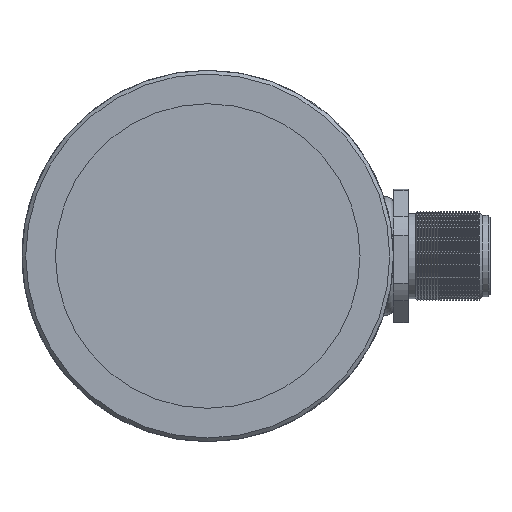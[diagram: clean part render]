
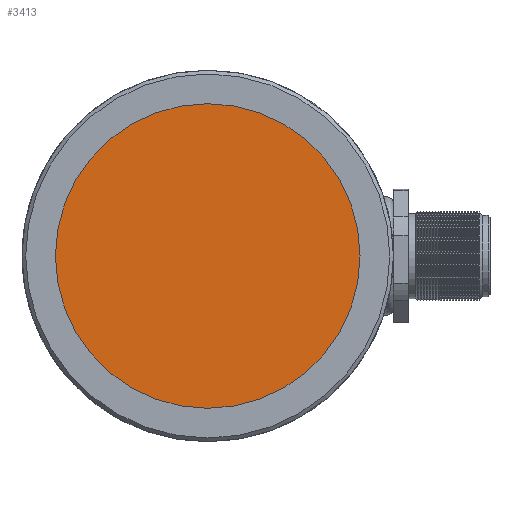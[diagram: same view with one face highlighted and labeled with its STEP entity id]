
A CAD part, left-side view. The second image highlights one B-rep face of the part: STEP entity #3413.
In plain terms, the highlighted planar face has unit normal (-1, 0, 0).
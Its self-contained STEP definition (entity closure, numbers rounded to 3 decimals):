
#430=PLANE('',#3682);
#836=VERTEX_POINT('',#4058);
#1138=CIRCLE('',#3681,20.5);
#1310=EDGE_CURVE('',#836,#836,#1138,.T.);
#1774=ORIENTED_EDGE('',*,*,#1310,.T.);
#2680=EDGE_LOOP('',(#1774));
#3051=FACE_BOUND('',#2680,.T.);
#3413=ADVANCED_FACE('',(#3051),#430,.F.);
#3681=AXIS2_PLACEMENT_3D('',#4057,#5745,#5746);
#3682=AXIS2_PLACEMENT_3D('',#4059,#5747,$);
#4057=CARTESIAN_POINT('',(-27.,0.,0.));
#4058=CARTESIAN_POINT('',(-27.,0.,-20.5));
#4059=CARTESIAN_POINT('',(-27.,0.,0.));
#5745=DIRECTION('',(-1.,0.,0.));
#5746=DIRECTION('',(0.,0.,-20.5));
#5747=DIRECTION('',(1.,0.,0.));
